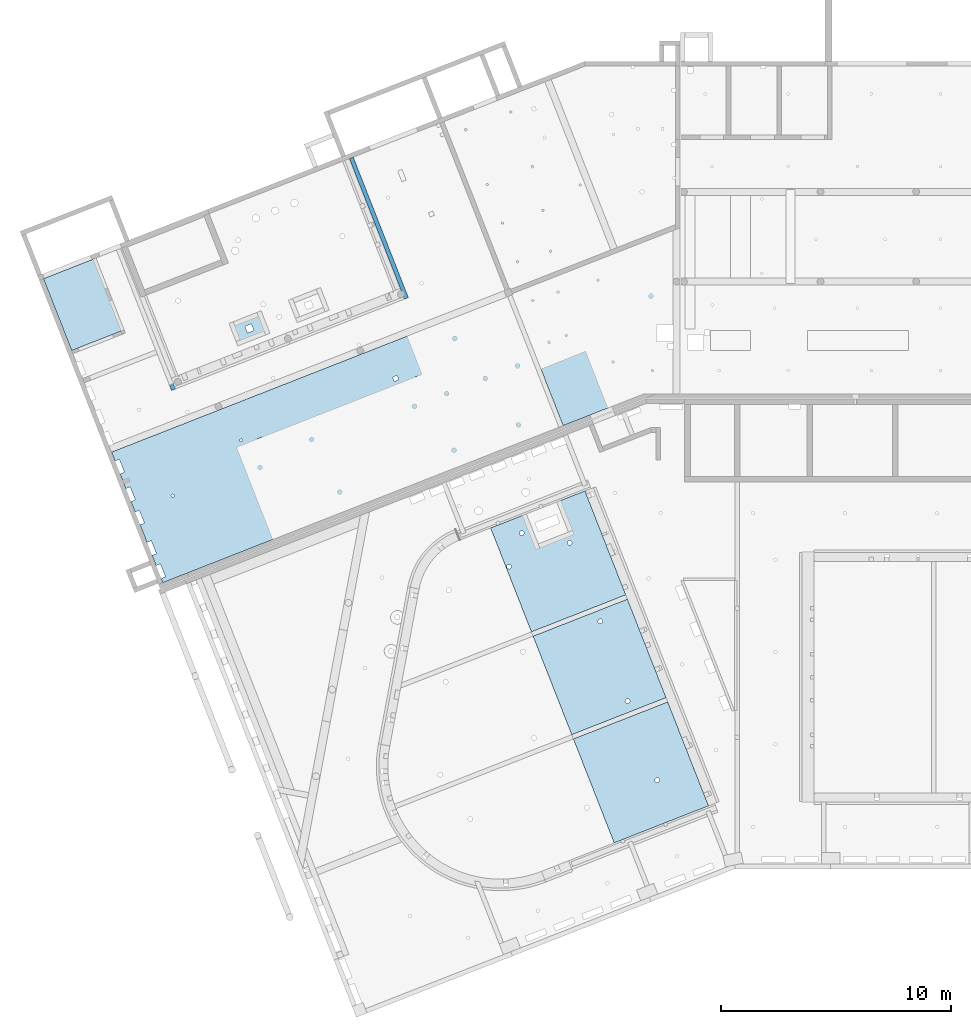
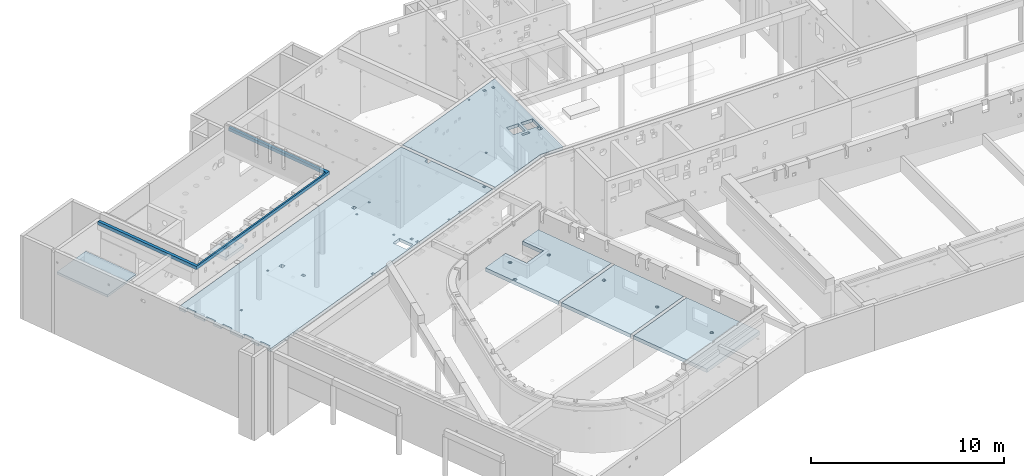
# One storey, part 7 of 28: 5 slabs, 37 openings.
"""IFC2X3 building model written with IfcOpenShell, lengths in metres."""

from ifc_helpers import new_model, entity, si_unit, converted_unit, direction, frame, frame_2d, origin, origin_with_axes, origin_2d_with_axis, place, context, subcontext, project, spatial, polyline, rectangle, circle, outline, extrude, material, element, save


model = new_model("IFC2X3")

# Units and contexts
model_context = context("Model", 3, precision=1e-05, world=origin(), true_north=direction((-0.407059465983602, -0.913401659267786)))
body_context = subcontext(model_context, "Body", "Model", "MODEL_VIEW")
ifc_project = project(units=[si_unit("LENGTHUNIT", "METRE"), si_unit("AREAUNIT", "SQUARE_METRE"), si_unit("VOLUMEUNIT", "CUBIC_METRE"), si_unit("MASSUNIT", "GRAM", prefix="KILO"), converted_unit("PLANEANGLEUNIT", "DEGREE", entity("IfcPlaneAngleMeasure", 0.0174532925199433), si_unit("PLANEANGLEUNIT", "RADIAN"), dimensions=[0, 0, 0, 0, 0, 0, 0])], contexts=[model_context])

# Site, buildings, storey
site_placement = place(None, origin())
site = spatial("IfcSite", under=ifc_project, at=site_placement, Name="Site", CompositionType="ELEMENT")
building_1_placement = place(site_placement, origin())
building_1 = spatial("IfcBuilding", under=site, at=building_1_placement, Name="Site", CompositionType="COMPLEX")
building_2_placement = place(building_1_placement, origin())
building_2 = spatial("IfcBuilding", under=building_1, at=building_2_placement, Name="Bâtiments", CompositionType="ELEMENT")
storey_placement = place(building_2_placement, frame((0.0, 0.0, -5.3)))
storey = spatial("IfcBuildingStorey", under=building_2, at=storey_placement, Name="SOUS-SOL", CompositionType="ELEMENT", Elevation=-5.3)

# Slab, opening
ifc_material_1 = material(Name="Béton")
slab_1_placement = place(storey_placement, frame((8.27631214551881, -2.94029679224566, 3.35)))
slab_1 = element("IfcSlab", 1, at=slab_1_placement, inside=storey, material=ifc_material_1, PredefinedType="FLOOR", context=body_context, shape_type="SweptSolid", body=[
    extrude(rectangle(XDim=1.05000000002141, YDim=1.50000472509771, at=frame_2d((0.889939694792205, -0.214792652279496), x_axis=(0.365246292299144, -0.930910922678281))), frame((0.0, 0.977456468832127, 0.0), z_axis=(0.0, 0.0, 1.0), x_axis=(1.0, 0.0, 0.0)), (0.0, 0.0, 1.0), 0.2),
])
opening_1_placement = place(slab_1_placement, frame((0.695519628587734, 0.5682336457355, 0.0)))
element("IfcOpeningElement", 2, at=opening_1_placement, cuts=slab_1, Name="Trémie dans dalle", ObjectType="Opening", context=body_context, shape_type="SweptSolid", body=[
    extrude(rectangle(XDim=0.299999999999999, YDim=0.300000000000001, at=frame_2d((-9.09494701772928e-16, 0.0), x_axis=(0.365246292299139, -0.930910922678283))), frame((0.194423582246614, 0.194423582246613, 0.0), z_axis=(0.0, 0.0, 1.0), x_axis=(1.0, 0.0, 0.0)), (0.0, 0.0, 1.0), 0.2),
])

# Slabs
ifc_material_2 = material(Name="Béton")
slab_2_placement = place(storey_placement, frame((3.38815590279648, -4.87552991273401, 4.96)))
element("IfcSlab", 3, at=slab_2_placement, inside=storey, material=ifc_material_2, PredefinedType="FLOOR", context=body_context, shape_type="SweptSolid", body=[
    extrude(outline(polyline([(0.0, 6.09746654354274), (2.30143842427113, 0.231741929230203), (2.3923632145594, 0.0), (12.6789289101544, 4.03597152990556), (10.2863484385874, 10.1333523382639), (10.1187844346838, 10.0676081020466), (10.8585205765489, 8.18222381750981), (10.9315697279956, 7.99604159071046), (11.187249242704, 7.34438472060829), (11.2602983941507, 7.15820249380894), (11.5159621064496, 6.50658589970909), (11.5890112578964, 6.32040367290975), (12.420215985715, 4.20189108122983), (12.4746194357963, 4.06323162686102), (12.4646814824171, 4.05933243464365), (11.9900145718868, 3.87309514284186), (11.8038323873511, 3.80004588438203), (10.2682703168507, 3.19756251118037), (10.082088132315, 3.12451325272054), (9.59244734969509, 2.93240090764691), (9.49935625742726, 2.89587627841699), (8.59218970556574, 2.53994617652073), (8.40600752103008, 2.4668969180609), (7.96382482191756, 2.29340492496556), (7.7776426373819, 2.22035566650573), (7.50055847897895, 2.11164068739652), (7.50055692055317, 2.11164007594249), (6.91190606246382, 1.8806807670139), (6.72572387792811, 1.80763150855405), (6.28819574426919, 1.6359657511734), (6.10201355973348, 1.56291649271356), (5.40382678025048, 1.28898036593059), (5.31073568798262, 1.25245573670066), (4.82199248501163, 1.06069556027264), (4.63581030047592, 0.987646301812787), (3.72817332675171, 0.631531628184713), (3.63508223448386, 0.595006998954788), (3.14636099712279, 0.403255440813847), (2.96017881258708, 0.330206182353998), (2.53286317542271, 0.162547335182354), (2.52340255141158, 0.158835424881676), (2.46900239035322, 0.297486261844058), (0.167563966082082, 6.16321087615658), (0.0, 6.09746654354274)])), origin_with_axes(), (0.0, 0.0, 1.0), 0.2),
])
ifc_material_3 = material(Name="Dalle_BA")
slab_3_placement = place(storey_placement, frame((0.222706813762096, -3.1385936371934, 3.68)))
element("IfcSlab", 4, at=slab_3_placement, inside=storey, material=ifc_material_3, PredefinedType="FLOOR", context=body_context, shape_type="SweptSolid", body=[
    extrude(outline(polyline([(3.45776602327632, 0.876590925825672), (2.23525949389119, 3.99556176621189), (0.0, 3.11855180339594), (1.22358025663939, 0.0), (3.45776602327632, 0.876590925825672)])), origin_with_axes(), (0.0, 0.0, 1.0), 0.15),
])

# Slab, openings
ifc_material_4 = material(Name="Dalle_BA")
slab_4_placement = place(storey_placement, frame((19.6386572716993, -24.5190612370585, 3.63)))
slab_4 = element("IfcSlab", 5, at=slab_4_placement, inside=storey, material=ifc_material_4, PredefinedType="FLOOR", context=body_context, shape_type="SweptSolid", body=[
    extrude(outline(polyline([(1.77096207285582, 0.0), (5.86697725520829, 1.60709589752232), (4.09600353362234, 6.12077968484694), (0.0, 4.51368835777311), (1.77096207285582, 0.0)])), frame((0.0, 9.16103974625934, 0.0), z_axis=(0.0, 0.0, 1.0), x_axis=(1.0, 0.0, 0.0)), (0.0, 0.0, 1.0), 0.23),
    extrude(outline(polyline([(0.0, 4.51215172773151), (1.770359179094, 0.0), (5.86636391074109, 1.6070921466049), (5.84813544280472, 1.65365097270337), (4.09602717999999, 6.11925233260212), (0.0, 4.51215172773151)])), frame((3.59497022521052, 0.0, 0.0), z_axis=(0.0, 0.0, 1.0), x_axis=(1.0, 0.0, 0.0)), (0.0, 0.0, 1.0), 0.23),
    extrude(outline(polyline([(1.67790963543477, 0.0), (5.77393633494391, 1.60710041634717), (4.09601566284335, 5.88361973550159), (0.0, 4.27652364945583), (1.67790963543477, 0.0)])), frame((1.84401133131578, 4.69833391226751, 0.0), z_axis=(0.0, 0.0, 1.0), x_axis=(1.0, 0.0, 0.0)), (0.0, 0.0, 1.0), 0.23),
])
opening_2_placement = place(slab_4_placement, frame((1.55462002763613, 12.9814185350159, 0.0)))
element("IfcOpeningElement", 6, at=opening_2_placement, cuts=slab_4, Name="Trémie dans dalle", ObjectType="Opening", context=body_context, shape_type="SweptSolid", body=[
    extrude(rectangle(XDim=1.4, YDim=1.41, at=frame_2d((0.0, 1.81898940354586e-15), x_axis=(0.365248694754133, -0.930909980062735))), frame((0.911965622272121, 0.909137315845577, 0.0), z_axis=(0.0, 0.0, 1.0), x_axis=(1.0, 0.0, 0.0)), (0.0, 0.0, 1.0), 0.23),
])
opening_3_placement = place(slab_4_placement, frame((7.13182251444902, 2.62311837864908, 0.0)))
element("IfcOpeningElement", 7, at=opening_3_placement, cuts=slab_4, Name="Trémie dans dalle", ObjectType="Opening", context=body_context, shape_type="SweptSolid", body=[
    extrude(circle(Radius=0.1, at=frame_2d((-1.09139364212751e-14, 0.0), x_axis=(1.0, 0.0))), frame((0.0995872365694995, 0.0995872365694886, 0.0), z_axis=(0.0, 0.0, 1.0), x_axis=(1.0, 0.0, 0.0)), (0.0, 0.0, 1.0), 0.23),
])
opening_4_placement = place(slab_4_placement, frame((5.84615440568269, 6.0524643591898, 0.0)))
element("IfcOpeningElement", 8, at=opening_4_placement, cuts=slab_4, Name="Trémie dans dalle", ObjectType="Opening", context=body_context, shape_type="SweptSolid", body=[
    extrude(circle(Radius=0.1, at=frame_2d((-7.27595761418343e-15, -7.27595761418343e-15), x_axis=(1.0, 0.0))), frame((0.0995872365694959, 0.0995872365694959, 0.0), z_axis=(0.0, 0.0, 1.0), x_axis=(1.0, 0.0, 0.0)), (0.0, 0.0, 1.0), 0.23),
])
opening_5_placement = place(slab_4_placement, frame((4.66388631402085, 9.52022994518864, 0.0)))
element("IfcOpeningElement", 9, at=opening_5_placement, cuts=slab_4, Name="Trémie dans dalle", ObjectType="Opening", context=body_context, shape_type="SweptSolid", body=[
    extrude(circle(Radius=0.1, at=frame_2d((-3.63797880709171e-15, 7.27595761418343e-15), x_axis=(1.0, 0.0))), frame((0.0995872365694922, 0.0995872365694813, 0.0), z_axis=(0.0, 0.0, 1.0), x_axis=(1.0, 0.0, 0.0)), (0.0, 0.0, 1.0), 0.23),
])
opening_6_placement = place(slab_4_placement, frame((0.703475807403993, 11.8979724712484, 0.0)))
element("IfcOpeningElement", 10, at=opening_6_placement, cuts=slab_4, Name="Trémie dans dalle", ObjectType="Opening", context=body_context, shape_type="SweptSolid", body=[
    extrude(circle(Radius=0.1, at=frame_2d((7.27595761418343e-15, 0.0), x_axis=(1.0, 0.0))), frame((0.0995872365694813, 0.0995872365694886, 0.0), z_axis=(0.0, 0.0, 1.0), x_axis=(1.0, 0.0, 0.0)), (0.0, 0.0, 1.0), 0.23),
])
opening_7_placement = place(slab_4_placement, frame((3.32864298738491, 12.9279663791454, 0.0)))
element("IfcOpeningElement", 11, at=opening_7_placement, cuts=slab_4, Name="Trémie dans dalle", ObjectType="Opening", context=body_context, shape_type="SweptSolid", body=[
    extrude(circle(Radius=0.1, at=frame_2d((3.63797880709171e-15, -1.81898940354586e-15), x_axis=(1.0, 0.0))), frame((0.099587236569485, 0.0995872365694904, 0.0), z_axis=(0.0, 0.0, 1.0), x_axis=(1.0, 0.0, 0.0)), (0.0, 0.0, 1.0), 0.23),
])
opening_8_placement = place(slab_4_placement, frame((1.24976457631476, 13.3530301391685, 0.0)))
element("IfcOpeningElement", 12, at=opening_8_placement, cuts=slab_4, Name="Trémie dans dalle", ObjectType="Opening", context=body_context, shape_type="SweptSolid", body=[
    extrude(circle(Radius=0.1, at=origin_2d_with_axis()), frame((0.0995872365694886, 0.0995872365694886, 0.0), z_axis=(0.0, 0.0, 1.0), x_axis=(1.0, 0.0, 0.0)), (0.0, 0.0, 1.0), 0.23),
])

ifc_material_5 = material(Name="Béton")
slab_5_placement = place(storey_placement, frame((3.17739810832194, -13.2208504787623, 4.96)))
slab_5 = element("IfcSlab", 13, at=slab_5_placement, inside=storey, material=ifc_material_5, PredefinedType="FLOOR", context=body_context, shape_type="SweptSolid", body=[
    extrude(outline(polyline([(0.0, 5.67014722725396), (2.22470292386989, 0.0), (19.4237321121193, 6.74810176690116), (17.1989601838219, 12.4184248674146), (0.0461298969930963, 5.68824643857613), (0.0, 5.67014722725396)])), origin_with_axes(), (0.0, 0.0, 1.0), 0.2),
    extrude(outline(polyline([(7.11985188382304, 8.50961297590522), (0.0, 5.71793681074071), (0.0198179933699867, 5.67017797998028), (2.24453298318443, 0.0), (5.76380482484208, 1.3808095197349), (7.11983549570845, 1.38080662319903), (7.11985188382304, 8.50961297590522)])), frame((17.3653811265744, 6.8211515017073, 0.0), z_axis=(0.0, 0.0, 1.0), x_axis=(1.0, 0.0, 0.0)), (0.0, 0.0, 1.0), 0.2),
])
opening_9_placement = place(slab_5_placement, frame((12.2108329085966, 8.74316801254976, 0.0)))
element("IfcOpeningElement", 14, at=opening_9_placement, cuts=slab_5, Name="Trémie dans dalle", ObjectType="Opening", context=body_context, shape_type="SweptSolid", body=[
    extrude(rectangle(XDim=0.200000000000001, YDim=0.200000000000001, at=frame_2d((-9.09494701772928e-16, -4.54747350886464e-16), x_axis=(0.365246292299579, -0.93091092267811))), frame((0.12961572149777, 0.12961572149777, 0.0), z_axis=(0.0, 0.0, 1.0), x_axis=(1.0, 0.0, 0.0)), (0.0, 0.0, 1.0), 0.2),
])
opening_10_placement = place(slab_5_placement, frame((5.55866261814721, 6.11867067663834, 0.0)))
element("IfcOpeningElement", 15, at=opening_10_placement, cuts=slab_5, Name="Trémie dans dalle", ObjectType="Opening", context=body_context, shape_type="SweptSolid", body=[
    extrude(rectangle(XDim=0.1, YDim=0.0999999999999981, at=frame_2d((-1.81898940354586e-15, -4.54747350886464e-16), x_axis=(0.365246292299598, -0.930910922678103))), frame((0.064807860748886, 0.0648078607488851, 0.0), z_axis=(0.0, 0.0, 1.0), x_axis=(1.0, 0.0, 0.0)), (0.0, 0.0, 1.0), 0.2),
])
opening_11_placement = place(slab_5_placement, frame((0.151033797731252, 4.72666626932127, 0.0)))
element("IfcOpeningElement", 16, at=opening_11_placement, cuts=slab_5, Name="Trémie dans dalle", ObjectType="Opening", context=body_context, shape_type="SweptSolid", body=[
    extrude(rectangle(XDim=0.599999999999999, YDim=0.2, at=frame_2d((6.82121026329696e-16, 0.0), x_axis=(0.365246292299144, -0.930910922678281))), frame((0.202664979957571, 0.315797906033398, 0.0), z_axis=(0.0, 0.0, 1.0), x_axis=(1.0, 0.0, 0.0)), (0.0, 0.0, 1.0), 0.2),
])
opening_12_placement = place(slab_5_placement, frame((0.623396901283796, 3.52274447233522, 0.0)))
element("IfcOpeningElement", 17, at=opening_12_placement, cuts=slab_5, Name="Trémie dans dalle", ObjectType="Opening", context=body_context, shape_type="SweptSolid", body=[
    extrude(rectangle(XDim=0.599999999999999, YDim=0.2, at=frame_2d((-6.82121026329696e-16, 1.81898940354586e-15), x_axis=(0.365246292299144, -0.930910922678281))), frame((0.202664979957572, 0.315797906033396, 0.0), z_axis=(0.0, 0.0, 1.0), x_axis=(1.0, 0.0, 0.0)), (0.0, 0.0, 1.0), 0.2),
])
opening_13_placement = place(slab_5_placement, frame((1.01954426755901, 2.51307533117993, 0.0)))
element("IfcOpeningElement", 18, at=opening_13_placement, cuts=slab_5, Name="Trémie dans dalle", ObjectType="Opening", context=body_context, shape_type="SweptSolid", body=[
    extrude(rectangle(XDim=0.599999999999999, YDim=0.2, at=frame_2d((4.54747350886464e-16, 0.0), x_axis=(0.365246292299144, -0.930910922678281))), frame((0.202664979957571, 0.315797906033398, 0.0), z_axis=(0.0, 0.0, 1.0), x_axis=(1.0, 0.0, 0.0)), (0.0, 0.0, 1.0), 0.2),
])
opening_14_placement = place(slab_5_placement, frame((1.53858389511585, 1.19019205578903, 0.0)))
element("IfcOpeningElement", 19, at=opening_14_placement, cuts=slab_5, Name="Trémie dans dalle", ObjectType="Opening", context=body_context, shape_type="SweptSolid", body=[
    extrude(rectangle(XDim=0.599999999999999, YDim=0.2, at=frame_2d((4.54747350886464e-16, -1.81898940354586e-15), x_axis=(0.365246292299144, -0.930910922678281))), frame((0.202664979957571, 0.3157979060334, 0.0), z_axis=(0.0, 0.0, 1.0), x_axis=(1.0, 0.0, 0.0)), (0.0, 0.0, 1.0), 0.2),
])
opening_15_placement = place(slab_5_placement, frame((1.93473228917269, 0.180523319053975, 0.0)))
element("IfcOpeningElement", 20, at=opening_15_placement, cuts=slab_5, Name="Trémie dans dalle", ObjectType="Opening", context=body_context, shape_type="SweptSolid", body=[
    extrude(rectangle(XDim=0.599999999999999, YDim=0.2, at=frame_2d((4.54747350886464e-16, -1.81898940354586e-15), x_axis=(0.365246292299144, -0.930910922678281))), frame((0.202664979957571, 0.3157979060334, 0.0), z_axis=(0.0, 0.0, 1.0), x_axis=(1.0, 0.0, 0.0)), (0.0, 0.0, 1.0), 0.2),
])
opening_16_placement = place(slab_5_placement, frame((2.5920980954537, 3.7128685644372, 0.0)))
element("IfcOpeningElement", 21, at=opening_16_placement, cuts=slab_5, Name="Trémie dans dalle", ObjectType="Opening", context=body_context, shape_type="SweptSolid", body=[
    extrude(circle(Radius=0.0650000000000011, at=frame_2d((9.09494701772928e-16, 0.0), x_axis=(1.0, 0.0))), frame((0.0647317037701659, 0.0647317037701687, 0.0), z_axis=(0.0, 0.0, 1.0), x_axis=(1.0, 0.0, 0.0)), (0.0, 0.0, 1.0), 0.2),
])
opening_17_placement = place(slab_5_placement, frame((23.655299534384, 10.4665312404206, 0.0)))
element("IfcOpeningElement", 22, at=opening_17_placement, cuts=slab_5, Name="Trémie dans dalle", ObjectType="Opening", context=body_context, shape_type="SweptSolid", body=[
    extrude(rectangle(XDim=0.730000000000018, YDim=0.730000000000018, at=frame_2d((1.81898940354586e-15, 0.0), x_axis=(0.0, -1.0))), frame((0.365000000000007, 0.365000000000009, 0.0), z_axis=(0.0, 0.0, 1.0), x_axis=(1.0, 0.0, 0.0)), (0.0, 0.0, 1.0), 0.2),
])
opening_18_placement = place(slab_5_placement, frame((24.1552705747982, 10.1505857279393, 0.0)))
element("IfcOpeningElement", 23, at=opening_18_placement, cuts=slab_5, Name="Trémie dans dalle", ObjectType="Opening", context=body_context, shape_type="SweptSolid", body=[
    extrude(rectangle(XDim=0.23, YDim=0.23, at=frame_2d((7.27595761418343e-15, 4.54747350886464e-16), x_axis=(0.0, -1.0))), frame((0.114999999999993, 0.115, 0.0), z_axis=(0.0, 0.0, 1.0), x_axis=(1.0, 0.0, 0.0)), (0.0, 0.0, 1.0), 0.2),
])
opening_19_placement = place(slab_5_placement, frame((17.6149857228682, 10.4409856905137, 0.0)))
element("IfcOpeningElement", 24, at=opening_19_placement, cuts=slab_5, Name="Trémie dans dalle", ObjectType="Opening", context=body_context, shape_type="SweptSolid", body=[
    extrude(rectangle(XDim=0.249999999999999, YDim=0.250000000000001, at=frame_2d((1.81898940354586e-15, 4.54747350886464e-16), x_axis=(0.365246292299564, -0.930910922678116))), frame((0.162019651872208, 0.16201965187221, 0.0), z_axis=(0.0, 0.0, 1.0), x_axis=(1.0, 0.0, 0.0)), (0.0, 0.0, 1.0), 0.2),
])
opening_20_placement = place(slab_5_placement, frame((13.4270253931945, 4.83960525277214, 0.0)))
element("IfcOpeningElement", 25, at=opening_20_placement, cuts=slab_5, Name="Trémie dans dalle", ObjectType="Opening", context=body_context, shape_type="SweptSolid", body=[
    extrude(rectangle(XDim=0.149999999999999, YDim=0.15, at=frame_2d((3.63797880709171e-15, 0.0), x_axis=(0.365246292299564, -0.930910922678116))), frame((0.0972117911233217, 0.0972117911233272, 0.0), z_axis=(0.0, 0.0, 1.0), x_axis=(1.0, 0.0, 0.0)), (0.0, 0.0, 1.0), 0.2),
])
opening_21_placement = place(slab_5_placement, frame((13.5706420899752, 4.47310807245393, 0.0)))
element("IfcOpeningElement", 26, at=opening_21_placement, cuts=slab_5, Name="Trémie dans dalle", ObjectType="Opening", context=body_context, shape_type="SweptSolid", body=[
    extrude(rectangle(XDim=0.149999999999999, YDim=0.15, at=frame_2d((0.0, 1.81898940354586e-15), x_axis=(0.365246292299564, -0.930910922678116))), frame((0.0972117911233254, 0.0972117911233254, 0.0), z_axis=(0.0, 0.0, 1.0), x_axis=(1.0, 0.0, 0.0)), (0.0, 0.0, 1.0), 0.2),
])
opening_22_placement = place(slab_5_placement, frame((12.8530861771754, 5.66403385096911, 0.0)))
element("IfcOpeningElement", 27, at=opening_22_placement, cuts=slab_5, Name="Trémie dans dalle", ObjectType="Opening", context=body_context, shape_type="SweptSolid", body=[
    extrude(rectangle(XDim=0.1, YDim=0.0999999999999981, at=frame_2d((-1.81898940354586e-15, 4.54747350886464e-16), x_axis=(0.365246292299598, -0.930910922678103))), frame((0.064807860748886, 0.0648078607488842, 0.0), z_axis=(0.0, 0.0, 1.0), x_axis=(1.0, 0.0, 0.0)), (0.0, 0.0, 1.0), 0.2),
])
opening_23_placement = place(slab_5_placement, frame((13.1943065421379, 8.84615274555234, 0.0)))
element("IfcOpeningElement", 28, at=opening_23_placement, cuts=slab_5, Name="Trémie dans dalle", ObjectType="Opening", context=body_context, shape_type="SweptSolid", body=[
    extrude(rectangle(XDim=0.1, YDim=0.1, at=frame_2d((1.81898940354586e-15, -4.54747350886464e-16), x_axis=(0.365246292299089, -0.930910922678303))), frame((0.0648078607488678, 0.0648078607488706, 0.0), z_axis=(0.0, 0.0, 1.0), x_axis=(1.0, 0.0, 0.0)), (0.0, 0.0, 1.0), 0.2),
])
opening_24_placement = place(slab_5_placement, frame((12.1178142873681, 8.22250645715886, 0.0)))
element("IfcOpeningElement", 29, at=opening_24_placement, cuts=slab_5, Name="Trémie dans dalle", ObjectType="Opening", context=body_context, shape_type="SweptSolid", body=[
    extrude(rectangle(XDim=0.0999999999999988, YDim=0.100000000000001, at=frame_2d((0.0, 0.0), x_axis=(0.365246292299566, -0.930910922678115))), frame((0.0648078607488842, 0.0648078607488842, 0.0), z_axis=(0.0, 0.0, 1.0), x_axis=(1.0, 0.0, 0.0)), (0.0, 0.0, 1.0), 0.2),
])
opening_25_placement = place(slab_5_placement, frame((6.91302303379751, 4.77116345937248, 0.0)))
element("IfcOpeningElement", 30, at=opening_25_placement, cuts=slab_5, Name="Trémie dans dalle", ObjectType="Opening", context=body_context, shape_type="SweptSolid", body=[
    extrude(rectangle(XDim=0.199999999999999, YDim=0.15, at=frame_2d((1.81898940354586e-15, 0.0), x_axis=(0.365246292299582, -0.930910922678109))), frame((0.106342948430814, 0.120484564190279, 0.0), z_axis=(0.0, 0.0, 1.0), x_axis=(1.0, 0.0, 0.0)), (0.0, 0.0, 1.0), 0.2),
])
opening_26_placement = place(slab_5_placement, frame((6.32261164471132, 6.02899979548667, 0.0)))
element("IfcOpeningElement", 31, at=opening_26_placement, cuts=slab_5, Name="Trémie dans dalle", ObjectType="Opening", context=body_context, shape_type="SweptSolid", body=[
    extrude(rectangle(XDim=0.229999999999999, YDim=0.229999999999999, at=frame_2d((-1.81898940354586e-15, 4.54747350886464e-16), x_axis=(0.365246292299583, -0.930910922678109))), frame((0.149058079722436, 0.149058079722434, 0.0), z_axis=(0.0, 0.0, 1.0), x_axis=(1.0, 0.0, 0.0)), (0.0, 0.0, 1.0), 0.2),
])
opening_27_placement = place(slab_5_placement, frame((12.4938957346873, 4.26365276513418, 0.0)))
element("IfcOpeningElement", 32, at=opening_27_placement, cuts=slab_5, Name="Trémie dans dalle", ObjectType="Opening", context=body_context, shape_type="SweptSolid", body=[
    extrude(rectangle(XDim=0.899999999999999, YDim=0.549999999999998, at=frame_2d((1.81898940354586e-15, 0.0), x_axis=(0.365246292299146, -0.93091092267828))), frame((0.42036133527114, 0.519352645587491, 0.0), z_axis=(0.0, 0.0, 1.0), x_axis=(1.0, 0.0, 0.0)), (0.0, 0.0, 1.0), 0.2),
])
opening_28_placement = place(slab_5_placement, frame((22.8079325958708, 10.4665312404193, 0.0)))
element("IfcOpeningElement", 33, at=opening_28_placement, cuts=slab_5, Name="Trémie dans dalle", ObjectType="Opening", context=body_context, shape_type="SweptSolid", body=[
    extrude(rectangle(XDim=0.730000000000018, YDim=0.730000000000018, at=frame_2d((-1.81898940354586e-15, 0.0), x_axis=(0.0, -1.0))), frame((0.365000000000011, 0.365000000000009, 0.0), z_axis=(0.0, 0.0, 1.0), x_axis=(1.0, 0.0, 0.0)), (0.0, 0.0, 1.0), 0.2),
])
opening_29_placement = place(slab_5_placement, frame((20.7007702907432, 9.68316980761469, 0.0)))
element("IfcOpeningElement", 34, at=opening_29_placement, cuts=slab_5, Name="Trémie dans dalle", ObjectType="Opening", context=body_context, shape_type="SweptSolid", body=[
    extrude(rectangle(XDim=0.100000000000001, YDim=0.1, at=frame_2d((0.0, 4.54747350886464e-16), x_axis=(0.36524629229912, -0.93091092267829))), frame((0.0648078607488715, 0.0648078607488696, 0.0), z_axis=(0.0, 0.0, 1.0), x_axis=(1.0, 0.0, 0.0)), (0.0, 0.0, 1.0), 0.2),
])
opening_30_placement = place(slab_5_placement, frame((23.4348009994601, 14.5960643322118, 0.0)))
element("IfcOpeningElement", 35, at=opening_30_placement, cuts=slab_5, Name="Trémie dans dalle", ObjectType="Opening", context=body_context, shape_type="SweptSolid", body=[
    extrude(rectangle(XDim=0.15, YDim=0.15, at=frame_2d((-7.27595761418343e-15, 0.0), x_axis=(0.0, -1.0))), frame((0.0750000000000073, 0.075, 0.0), z_axis=(0.0, 0.0, 1.0), x_axis=(1.0, 0.0, 0.0)), (0.0, 0.0, 1.0), 0.2),
])
opening_31_placement = place(slab_5_placement, frame((23.9586804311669, 14.5960643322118, 0.0)))
element("IfcOpeningElement", 36, at=opening_31_placement, cuts=slab_5, Name="Trémie dans dalle", ObjectType="Opening", context=body_context, shape_type="SweptSolid", body=[
    extrude(rectangle(XDim=0.15, YDim=0.15, at=frame_2d((-7.27595761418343e-15, 0.0), x_axis=(0.0, -1.0))), frame((0.0750000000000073, 0.075, 0.0), z_axis=(0.0, 0.0, 1.0), x_axis=(1.0, 0.0, 0.0)), (0.0, 0.0, 1.0), 0.2),
])
opening_32_placement = place(slab_5_placement, frame((22.3456868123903, 14.2960643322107, 0.0)))
element("IfcOpeningElement", 37, at=opening_32_placement, cuts=slab_5, Name="Trémie dans dalle", ObjectType="Opening", context=body_context, shape_type="SweptSolid", body=[
    extrude(rectangle(XDim=0.1, YDim=0.1, at=frame_2d((-3.63797880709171e-15, 0.0), x_axis=(0.0, -1.0))), frame((0.0500000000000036, 0.05, 0.0), z_axis=(0.0, 0.0, 1.0), x_axis=(1.0, 0.0, 0.0)), (0.0, 0.0, 1.0), 0.2),
])
opening_33_placement = place(slab_5_placement, frame((23.1866595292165, 10.1525666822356, 0.0)))
element("IfcOpeningElement", 38, at=opening_33_placement, cuts=slab_5, Name="Trémie dans dalle", ObjectType="Opening", context=body_context, shape_type="SweptSolid", body=[
    extrude(rectangle(XDim=0.15, YDim=0.45, at=frame_2d((3.63797880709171e-15, -4.54747350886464e-16), x_axis=(0.0, -1.0))), frame((0.224999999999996, 0.0750000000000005, 0.0), z_axis=(0.0, 0.0, 1.0), x_axis=(1.0, 0.0, 0.0)), (0.0, 0.0, 1.0), 0.2),
])
opening_34_placement = place(slab_5_placement, frame((19.0390623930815, 7.04165176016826, 0.0)))
element("IfcOpeningElement", 39, at=opening_34_placement, cuts=slab_5, Name="Trémie dans dalle", ObjectType="Opening", context=body_context, shape_type="SweptSolid", body=[
    extrude(rectangle(XDim=0.149999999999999, YDim=0.15, at=frame_2d((-3.63797880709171e-15, -9.09494701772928e-16), x_axis=(0.365246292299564, -0.930910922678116))), frame((0.097211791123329, 0.0972117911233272, 0.0), z_axis=(0.0, 0.0, 1.0), x_axis=(1.0, 0.0, 0.0)), (0.0, 0.0, 1.0), 0.2),
])
opening_35_placement = place(slab_5_placement, frame((16.8586395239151, 5.75578531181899, 0.0)))
element("IfcOpeningElement", 40, at=opening_35_placement, cuts=slab_5, Name="Trémie dans dalle", ObjectType="Opening", context=body_context, shape_type="SweptSolid", body=[
    extrude(rectangle(XDim=0.0999999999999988, YDim=0.0999999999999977, at=frame_2d((3.63797880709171e-15, 0.0), x_axis=(0.365246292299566, -0.930910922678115))), frame((0.0648078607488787, 0.0648078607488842, 0.0), z_axis=(0.0, 0.0, 1.0), x_axis=(1.0, 0.0, 0.0)), (0.0, 0.0, 1.0), 0.2),
])
opening_36_placement = place(slab_5_placement, frame((16.011821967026, 5.42411312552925, 0.0)))
element("IfcOpeningElement", 41, at=opening_36_placement, cuts=slab_5, Name="Trémie dans dalle", ObjectType="Opening", context=body_context, shape_type="SweptSolid", body=[
    extrude(rectangle(XDim=0.0999999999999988, YDim=0.0999999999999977, at=frame_2d((0.0, 0.0), x_axis=(0.365246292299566, -0.930910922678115))), frame((0.0648078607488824, 0.0648078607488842, 0.0), z_axis=(0.0, 0.0, 1.0), x_axis=(1.0, 0.0, 0.0)), (0.0, 0.0, 1.0), 0.2),
])
opening_37_placement = place(slab_5_placement, frame((10.1125770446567, 3.11630467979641, 0.0)))
element("IfcOpeningElement", 42, at=opening_37_placement, cuts=slab_5, Name="Trémie dans dalle", ObjectType="Opening", context=body_context, shape_type="SweptSolid", body=[
    extrude(rectangle(XDim=0.15, YDim=0.15, at=frame_2d((1.81898940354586e-15, 0.0), x_axis=(0.365246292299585, -0.930910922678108))), frame((0.0972117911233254, 0.0972117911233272, 0.0), z_axis=(0.0, 0.0, 1.0), x_axis=(1.0, 0.0, 0.0)), (0.0, 0.0, 1.0), 0.2),
])

save(model, "model.ifc")
